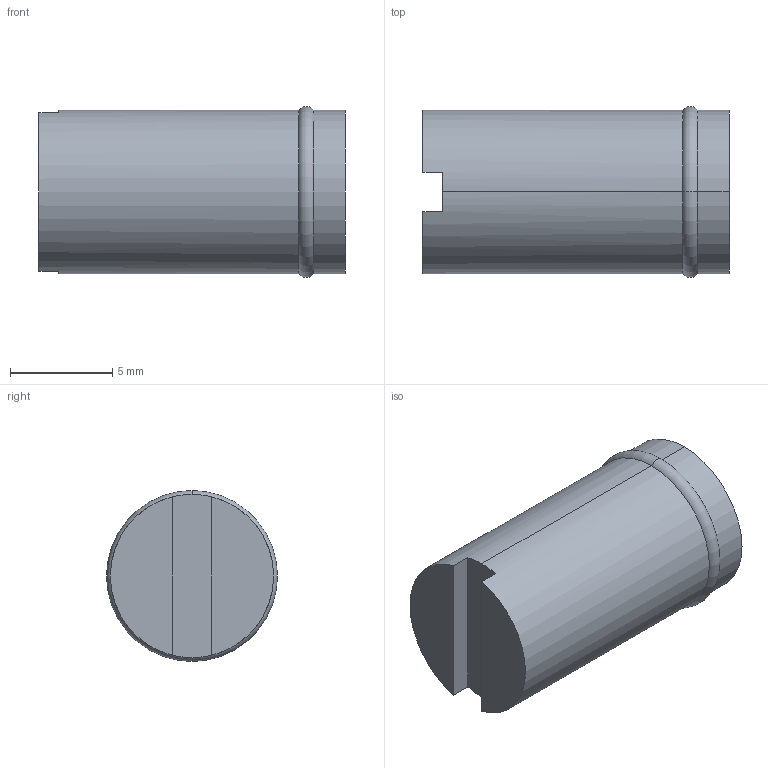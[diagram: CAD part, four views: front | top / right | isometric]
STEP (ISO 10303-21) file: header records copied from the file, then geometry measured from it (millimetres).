
FILE_DESCRIPTION (( 'STEP AP214' ), '1' );
FILE_NAME ('BRWV-8.STEP', '2020-06-23T10:45:33', ( '' ), ( '' ), 'SwSTEP 2.0', 'SolidWorks 2018', '' );
FILE_SCHEMA (( 'AUTOMOTIVE_DESIGN' ));
Length unit declared in the file: millimetre
Products named in the file (1): BRWV-8
Bounding box: 15 x 8.38 x 8.38 mm (x, y, z)
Volume: 741.5 mm3; surface area: 492.7 mm2
Topology: 1 solids, 1 shells, 12 faces, 26 edges, 16 vertices
Faces by surface type: plane 6, cylinder 4, torus 2
Entity records: 366 total; most frequent: DIRECTION 66, CARTESIAN_POINT 55, ORIENTED_EDGE 52, AXIS2_PLACEMENT_3D 27, EDGE_CURVE 26, VERTEX_POINT 16, CIRCLE 14, FACE_OUTER_BOUND 12
